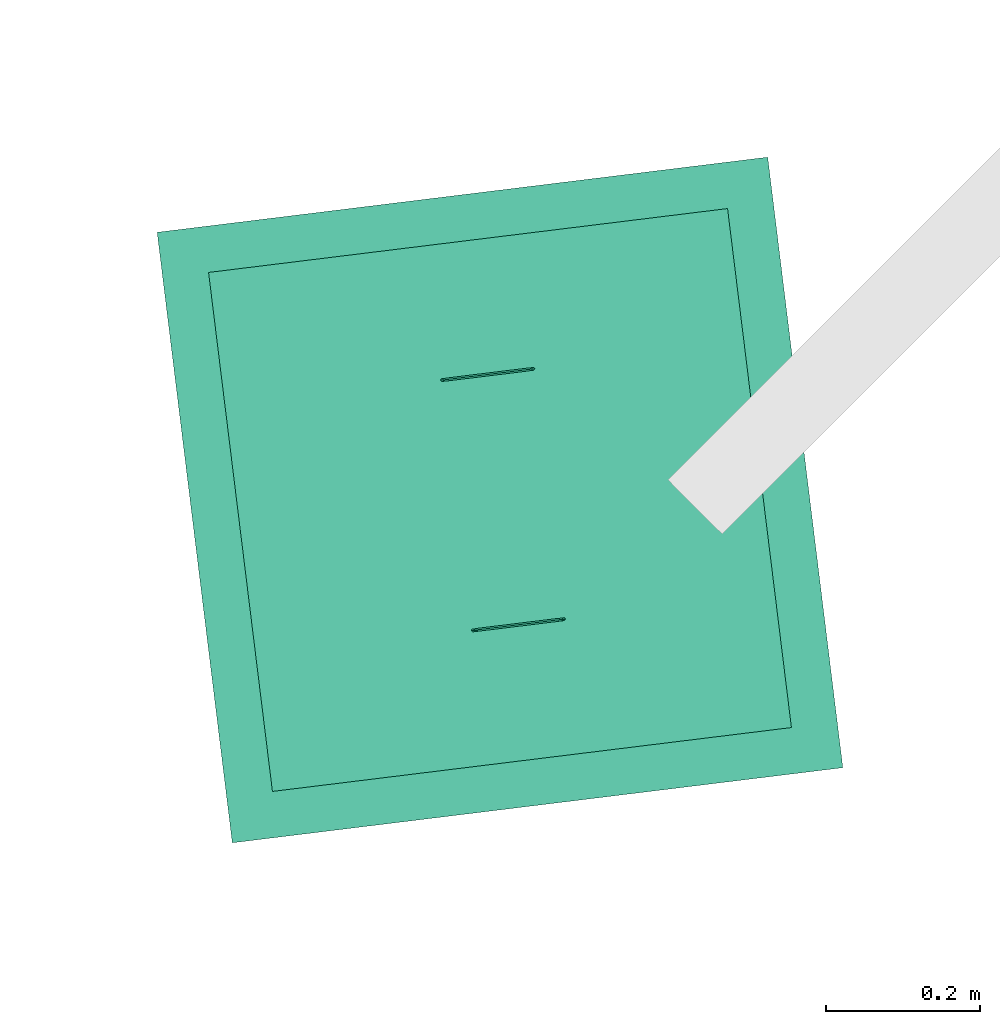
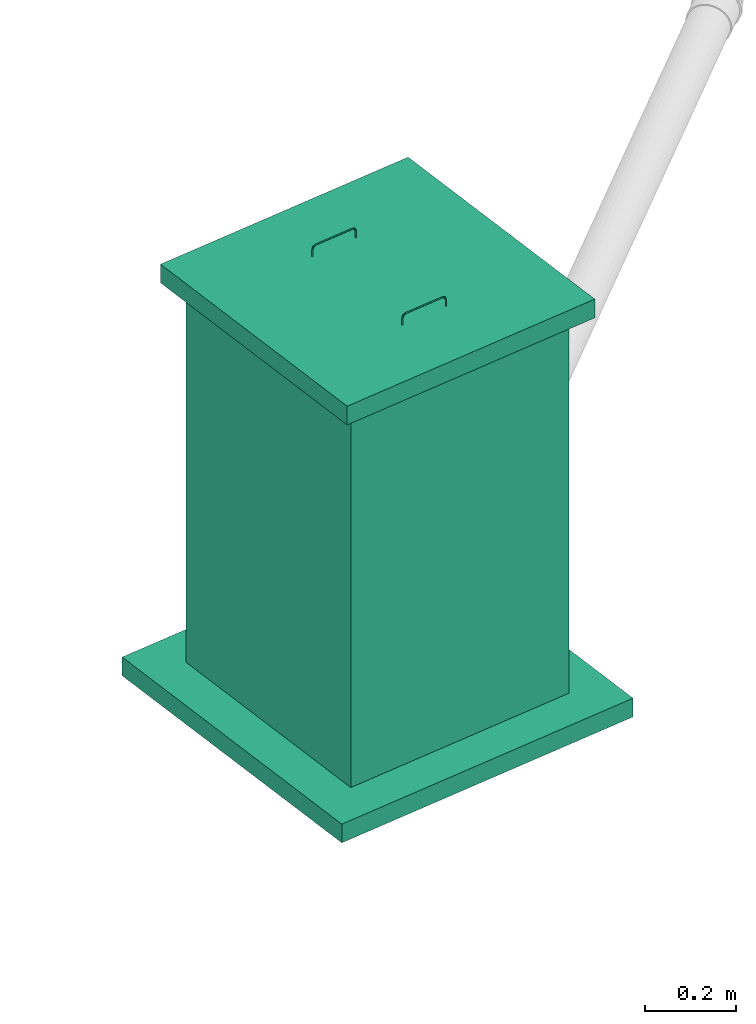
# One storey, part 93 of 97: 1 flow terminal.
"""IFC2X3 building model written with IfcOpenShell, lengths in centimetres."""

from ifc_helpers import new_model, entity, si_unit, converted_unit, derived_unit, direction, frame, origin, place, context, subcontext, project, spatial, faceted_brep, source, transform, mapped, material, material_list, type_object, type_shapes, element, save


model = new_model("IFC2X3")

# Units and contexts
model_context = context("Model", 3, precision=0.001, world=origin(), true_north=direction((6.12303176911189e-17, 1.0)))
body_context = subcontext(model_context, "Body", "Model", "MODEL_VIEW")
ifc_project = project(units=[si_unit("LENGTHUNIT", "METRE", prefix="CENTI"), si_unit("AREAUNIT", "SQUARE_METRE"), si_unit("VOLUMEUNIT", "CUBIC_METRE"), converted_unit("PLANEANGLEUNIT", "DEGREE", entity("IfcRatioMeasure", 0.0174532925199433), si_unit("PLANEANGLEUNIT", "RADIAN"), dimensions=[0, 0, 0, 0, 0, 0, 0]), si_unit("MASSUNIT", "GRAM", prefix="KILO"), derived_unit("MASSDENSITYUNIT", [(si_unit("MASSUNIT", "GRAM", prefix="KILO"), 1), (si_unit("LENGTHUNIT", "METRE"), -3)]), derived_unit("MOMENTOFINERTIAUNIT", [(si_unit("LENGTHUNIT", "METRE"), 4)]), si_unit("TIMEUNIT", "SECOND"), si_unit("FREQUENCYUNIT", "HERTZ"), si_unit("THERMODYNAMICTEMPERATUREUNIT", "DEGREE_CELSIUS"), derived_unit("THERMALTRANSMITTANCEUNIT", [(si_unit("MASSUNIT", "GRAM", prefix="KILO"), 1), (si_unit("THERMODYNAMICTEMPERATUREUNIT", "KELVIN"), -1), (si_unit("TIMEUNIT", "SECOND"), -3)]), derived_unit("VOLUMETRICFLOWRATEUNIT", [(si_unit("LENGTHUNIT", "METRE"), 3), (si_unit("TIMEUNIT", "SECOND"), -1)]), si_unit("ELECTRICCURRENTUNIT", "AMPERE"), si_unit("ELECTRICVOLTAGEUNIT", "VOLT"), si_unit("POWERUNIT", "WATT"), si_unit("FORCEUNIT", "NEWTON", prefix="KILO"), si_unit("ILLUMINANCEUNIT", "LUX"), si_unit("LUMINOUSFLUXUNIT", "LUMEN"), si_unit("LUMINOUSINTENSITYUNIT", "CANDELA"), derived_unit("USERDEFINED", [(si_unit("MASSUNIT", "GRAM", prefix="KILO"), -1), (si_unit("LENGTHUNIT", "METRE"), -2), (si_unit("TIMEUNIT", "SECOND"), 3), (si_unit("LUMINOUSFLUXUNIT", "LUMEN"), 1)]), derived_unit("LINEARVELOCITYUNIT", [(si_unit("LENGTHUNIT", "METRE"), 1), (si_unit("TIMEUNIT", "SECOND"), -1)]), si_unit("PRESSUREUNIT", "PASCAL"), derived_unit("USERDEFINED", [(si_unit("LENGTHUNIT", "METRE"), -2), (si_unit("MASSUNIT", "GRAM", prefix="KILO"), 1), (si_unit("TIMEUNIT", "SECOND"), -2)]), derived_unit("LINEARFORCEUNIT", [(si_unit("MASSUNIT", "GRAM", prefix="KILO"), 1), (si_unit("LENGTHUNIT", "METRE"), 1), (si_unit("TIMEUNIT", "SECOND"), -2), (si_unit("LENGTHUNIT", "METRE"), -1)]), derived_unit("PLANARFORCEUNIT", [(si_unit("MASSUNIT", "GRAM", prefix="KILO"), 1), (si_unit("LENGTHUNIT", "METRE"), 1), (si_unit("TIMEUNIT", "SECOND"), -2), (si_unit("LENGTHUNIT", "METRE"), -2)])], contexts=[model_context])

# Site, building, storey
site_placement = place(None, origin())
site = spatial("IfcSite", under=ifc_project, at=site_placement, Name="Default", CompositionType="ELEMENT")
building_placement = place(site_placement, origin())
building = spatial("IfcBuilding", under=site, at=building_placement, Name="HIDROSSANITÁRIO", CompositionType="ELEMENT")
storey_placement = place(building_placement, frame((0.0, 0.0, -260.0)))
storey = spatial("IfcBuildingStorey", under=building, at=storey_placement, Name="TÉRREO-HID", CompositionType="ELEMENT", Elevation=-260.0)

# Flow terminal
ifc_material_1 = material(Name="<Unnamed>")
ifc_material_2 = material(Name="Concrete, Sand/Cement Screed")
ifc_material_3 = material(Name="Brick, Common, Grey")
ifc_material_list_1 = material_list([ifc_material_1, ifc_material_2, ifc_material_3])
ifc_material_list_2 = material_list([ifc_material_1, ifc_material_2, ifc_material_3])
distribution_element_type = type_object("IfcDistributionElementType", Name="Caixa de Inspeção/Gordura:Alvenaria", material=ifc_material_list_2)
shared_shape = source(origin(), body_context, "Body", "Brep", [
    faceted_brep([(-5.60146522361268, 16.5924553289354, 3.71042168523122), (-5.40613785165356, 16.3971279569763, 3.71042168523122), (-5.60146522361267, 16.2018005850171, 3.71042168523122), (-5.79679259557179, 16.3971279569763, 3.71042168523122), (6.39853477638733, 16.2018005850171, 3.71042168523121), (6.20320740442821, 16.3971279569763, 3.71042168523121), (6.39853477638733, 16.5924553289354, 3.71042168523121), (6.59386214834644, 16.3971279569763, 3.71042168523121), (-5.40613785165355, 16.3971279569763, 5.27042602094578), (-5.57070403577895, 16.2042380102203, 5.71042174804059), (-5.79679259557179, 16.3971279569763, 5.27042593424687), (-5.40613785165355, 16.3971279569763, 7.71042168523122), (-5.60146522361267, 16.2018005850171, 7.71042168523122), (-5.40613785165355, 16.3971279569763, 6.1504173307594), (-5.79679259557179, 16.3971279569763, 7.71042168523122), (-5.60146522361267, 16.5924553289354, 7.71042168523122), (-5.63222641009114, 16.5900179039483, 5.71042169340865), (-5.68947233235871, 16.5044482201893, 7.71042168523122), (-5.25102598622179, 16.2195619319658, 8.35998244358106), (-5.37993713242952, 16.2298951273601, 8.48889359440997), (-4.60146522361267, 16.3971279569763, 8.90574905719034), (-4.60146522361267, 16.2018005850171, 8.71042168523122), (-5.17045469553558, 16.3971279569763, 8.27941115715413), (-4.60146522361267, 16.3971279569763, 8.5150943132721), (-5.44668931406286, 16.3971279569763, 8.55564577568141), (-5.36898819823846, 16.5727768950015, 8.47794465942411), (-5.21737432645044, 16.5627205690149, 8.36172681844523), (-4.60146522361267, 16.5924553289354, 8.71042168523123), (0.518543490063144, 16.3971279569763, 8.90574905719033), (1.73854147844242, 16.2018005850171, 8.71042168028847), (2.95853913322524, 16.3971279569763, 8.90574905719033), (-0.76461087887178, 16.2018577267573, 8.71514602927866), (-2.16146960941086, 16.3971279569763, 8.5150943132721), (0.278526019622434, 16.3971279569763, 8.5150943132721), (0.398534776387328, 16.3971279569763, 8.5150943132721), (-2.16146958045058, 16.3971279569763, 8.90574905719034), (5.39853477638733, 16.2018005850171, 8.71042168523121), (5.39853477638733, 16.3971279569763, 8.90574905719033), (2.95853916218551, 16.3971279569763, 8.5150943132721), (5.39853477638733, 16.3971279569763, 8.51509431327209), (0.398534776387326, 16.3971279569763, 8.90574905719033), (1.56168082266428, 16.5923981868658, 8.70569732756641), (-0.941471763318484, 16.5924553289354, 8.71042168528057), (5.39853477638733, 16.5924553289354, 8.71042168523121), (5.39853477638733, 16.5044482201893, 8.79842879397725), (6.04809553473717, 16.2195619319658, 8.35998244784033), (6.17700668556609, 16.2298951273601, 8.48889359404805), (6.59386214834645, 16.3971279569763, 7.71042168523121), (6.39853477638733, 16.2018005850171, 7.71042168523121), (5.96752424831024, 16.3971279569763, 8.27941115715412), (6.20320740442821, 16.3971279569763, 7.71042168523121), (6.24375886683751, 16.3971279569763, 8.5556457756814), (6.16605775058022, 16.5727768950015, 8.477944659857), (6.04983990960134, 16.5627205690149, 8.32633078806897), (6.39853477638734, 16.5924553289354, 7.71042168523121), (6.20320740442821, 16.3971279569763, 6.15041734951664), (6.36777358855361, 16.2042380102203, 5.71042162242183), (6.59386214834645, 16.3971279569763, 6.15041743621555), (6.20320740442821, 16.3971279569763, 5.27042603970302), (6.4292959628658, 16.5900179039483, 5.71042167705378)], [[[0, 1, 2, 3]], [[4, 5, 6, 7]], [[8, 9, 2]], [[2, 10, 3]], [[10, 2, 9]], [[11, 12, 9]], [[8, 2, 1]], [[9, 8, 13, 11]], [[9, 12, 14]], [[14, 10, 9]], [[13, 15, 11]], [[0, 10, 16]], [[14, 16, 10]], [[10, 0, 3]], [[16, 13, 8, 1]], [[13, 16, 15]], [[1, 0, 16]], [[16, 14, 17, 15]], [[12, 18, 19]], [[20, 19, 21]], [[14, 12, 19]], [[11, 22, 18]], [[23, 21, 18]], [[14, 19, 24]], [[24, 19, 20]], [[23, 18, 22]], [[19, 18, 21]], [[11, 18, 12]], [[17, 14, 24]], [[25, 26, 15]], [[25, 15, 17]], [[11, 15, 26]], [[25, 27, 26]], [[20, 25, 24]], [[20, 27, 25]], [[26, 22, 11]], [[22, 26, 23]], [[17, 24, 25]], [[23, 26, 27]], [[28, 29, 30]], [[31, 32, 33, 34]], [[35, 20, 21]], [[36, 37, 30]], [[29, 28, 31]], [[38, 39, 36]], [[21, 23, 32]], [[34, 29, 31]], [[32, 31, 21]], [[30, 29, 36]], [[34, 38, 29]], [[36, 29, 38]], [[31, 28, 40, 35]], [[31, 35, 21]], [[40, 41, 42]], [[43, 39, 38]], [[27, 42, 33, 32, 23]], [[27, 20, 35, 40, 42]], [[30, 37, 44, 43]], [[38, 41, 43]], [[30, 43, 41]], [[42, 41, 33]], [[41, 40, 28, 30]], [[41, 38, 34, 33]], [[36, 45, 46]], [[47, 46, 48]], [[37, 36, 46]], [[39, 49, 45]], [[50, 48, 45]], [[37, 46, 51]], [[51, 46, 47]], [[50, 45, 49]], [[46, 45, 48]], [[39, 45, 36]], [[44, 37, 51]], [[52, 53, 43]], [[52, 43, 44]], [[39, 43, 53]], [[52, 54, 53]], [[47, 52, 51]], [[47, 54, 52]], [[53, 49, 39]], [[49, 53, 50]], [[44, 51, 52]], [[50, 53, 54]], [[55, 56, 48]], [[48, 57, 47]], [[57, 48, 56]], [[5, 4, 56]], [[55, 48, 50]], [[56, 55, 58, 5]], [[56, 4, 7]], [[7, 57, 56]], [[58, 6, 5]], [[54, 57, 59]], [[7, 59, 57]], [[57, 54, 47]], [[59, 58, 55, 50]], [[58, 59, 6]], [[50, 54, 59]], [[7, 6, 59]]]),
    faceted_brep([(-5.60146522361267, -16.5924553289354, 3.71042168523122), (-5.79679259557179, -16.3971279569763, 3.71042168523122), (-5.60146522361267, -16.2018005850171, 3.71042168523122), (-5.40613785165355, -16.3971279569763, 3.71042168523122), (6.39853477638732, -16.2018005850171, 3.71042168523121), (6.59386214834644, -16.3971279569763, 3.71042168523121), (6.39853477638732, -16.5924553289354, 3.71042168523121), (6.20320740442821, -16.3971279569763, 3.71042168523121), (-5.79679259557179, -16.3971279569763, 6.15041737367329), (-5.60146522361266, -16.5924553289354, 7.71042168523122), (-5.68947233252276, -16.5044482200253, 7.71042168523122), (-5.79679259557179, -16.3971279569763, 7.71042168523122), (-5.40613785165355, -16.3971279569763, 5.27042602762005), (-5.5707040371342, -16.5900179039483, 5.71042169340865), (-5.40613785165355, -16.3971279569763, 7.71042168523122), (-5.79679259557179, -16.3971279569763, 5.27042602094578), (-5.51345811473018, -16.5044482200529, 7.71042168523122), (-5.63222641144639, -16.2042380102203, 5.71042174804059), (-5.60146522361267, -16.2018005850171, 7.71042168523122), (-5.37028554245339, -16.5521831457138, 8.52319636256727), (-5.44668931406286, -16.3971279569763, 8.55564577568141), (-5.17045469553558, -16.3971279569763, 8.27941115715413), (-4.60146522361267, -16.3971279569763, 8.5150943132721), (-4.60146522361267, -16.5044482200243, 8.62241457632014), (-4.60146522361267, -16.5924553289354, 8.71042168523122), (-4.60146522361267, -16.5044482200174, 8.79842879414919), (-5.27261908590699, -16.5857215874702, 8.3815755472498), (-4.60146522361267, -16.3971279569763, 8.90574905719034), (-5.23720687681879, -16.2298951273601, 8.34616333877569), (-4.60146522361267, -16.2018005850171, 8.71042168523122), (-5.36611802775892, -16.2195619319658, 8.4750744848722), (0.398534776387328, -16.3971279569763, 8.5150943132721), (1.56168082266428, -16.5923981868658, 8.71514604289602), (-0.941471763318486, -16.5924553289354, 8.71042168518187), (2.95853912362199, -16.3971279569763, 8.90574905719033), (5.39853477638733, -16.5924553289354, 8.71042168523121), (5.39853477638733, -16.5044482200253, 8.7984287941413), (5.39853477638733, -16.3971279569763, 8.90574905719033), (0.278526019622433, -16.3971279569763, 8.90574905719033), (-2.16146957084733, -16.3971279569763, 8.90574905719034), (-2.16146960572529, -16.3971279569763, 8.5150943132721), (2.95853915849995, -16.3971279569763, 8.51509431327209), (5.39853477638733, -16.3971279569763, 8.51509431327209), (5.39853477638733, -16.5044482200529, 8.62241457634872), (0.518543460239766, -16.3971279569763, 8.5150943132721), (0.398534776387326, -16.3971279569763, 8.90574905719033), (1.73854147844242, -16.2018005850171, 8.71042169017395), (-0.76461087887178, -16.2018577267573, 8.70569734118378), (5.39853477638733, -16.2018005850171, 8.71042168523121), (6.21130945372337, -16.5521831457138, 8.47924200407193), (6.24375886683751, -16.3971279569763, 8.5556457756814), (5.96752424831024, -16.3971279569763, 8.27941115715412), (6.20320740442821, -16.3971279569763, 7.71042168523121), (6.31052766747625, -16.5044482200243, 7.71042168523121), (6.39853477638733, -16.5924553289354, 7.71042168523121), (6.4865418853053, -16.5044482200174, 7.71042168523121), (6.06968863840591, -16.5857215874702, 8.38157554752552), (6.59386214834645, -16.3971279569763, 7.71042168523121), (6.03427642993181, -16.2298951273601, 8.34616333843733), (6.39853477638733, -16.2018005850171, 7.71042168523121), (6.16318757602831, -16.2195619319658, 8.47507448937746), (6.59386214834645, -16.3971279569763, 5.27042599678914), (6.20320740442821, -16.3971279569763, 6.15041726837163), (6.36777358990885, -16.5900179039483, 5.71042167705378), (6.59386214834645, -16.3971279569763, 6.15041734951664), (6.42929596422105, -16.2042380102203, 5.71042162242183)], [[[0, 1, 2, 3]], [[4, 5, 6, 7]], [[8, 9, 10, 11]], [[0, 12, 13]], [[14, 13, 12]], [[12, 0, 3]], [[13, 8, 15, 1]], [[8, 13, 9]], [[1, 0, 13]], [[13, 14, 16, 9]], [[15, 17, 2]], [[2, 12, 3]], [[12, 2, 17]], [[11, 18, 17]], [[15, 2, 1]], [[17, 15, 8, 11]], [[17, 18, 14]], [[14, 12, 17]], [[19, 10, 9]], [[10, 19, 20]], [[21, 22, 23]], [[24, 25, 19]], [[24, 26, 23]], [[24, 19, 26]], [[16, 26, 9]], [[20, 25, 27]], [[20, 11, 10]], [[23, 26, 21]], [[19, 25, 20]], [[14, 21, 16]], [[26, 19, 9]], [[26, 16, 21]], [[22, 28, 29]], [[18, 30, 28]], [[14, 28, 21]], [[14, 18, 28]], [[11, 20, 30]], [[27, 30, 20]], [[27, 29, 30]], [[11, 30, 18]], [[21, 28, 22]], [[28, 30, 29]], [[31, 32, 33]], [[34, 35, 36, 37]], [[24, 33, 38, 39, 27, 25]], [[40, 31, 33, 24, 23, 22]], [[41, 42, 43, 35]], [[34, 32, 35]], [[41, 35, 32]], [[33, 32, 38]], [[32, 31, 44, 41]], [[32, 34, 45, 38]], [[44, 46, 41]], [[47, 39, 38, 45]], [[40, 22, 29]], [[48, 42, 41]], [[46, 44, 47]], [[34, 37, 48]], [[29, 27, 39]], [[45, 46, 47]], [[39, 47, 29]], [[41, 46, 48]], [[45, 34, 46]], [[48, 46, 34]], [[47, 44, 31, 40]], [[47, 40, 29]], [[49, 36, 35]], [[36, 49, 50]], [[51, 52, 53]], [[54, 55, 49]], [[54, 56, 53]], [[54, 49, 56]], [[43, 56, 35]], [[50, 55, 57]], [[50, 37, 36]], [[53, 56, 51]], [[49, 55, 50]], [[42, 51, 43]], [[56, 49, 35]], [[56, 43, 51]], [[52, 58, 59]], [[48, 60, 58]], [[42, 58, 51]], [[42, 48, 58]], [[37, 50, 60]], [[57, 60, 50]], [[57, 59, 60]], [[37, 60, 48]], [[51, 58, 52]], [[58, 60, 59]], [[61, 6, 5]], [[54, 62, 63]], [[7, 63, 62]], [[62, 54, 53, 52]], [[63, 61, 64, 57]], [[61, 63, 6]], [[63, 57, 55, 54]], [[7, 6, 63]], [[64, 65, 59]], [[59, 62, 52]], [[62, 59, 65]], [[5, 4, 65]], [[64, 59, 57]], [[65, 64, 61, 5]], [[65, 4, 7]], [[7, 62, 65]]]),
    faceted_brep([(34.0, 34.0, 6.0), (-34.0, 34.0, 6.0), (-34.0, -34.0, 6.0), (34.0, -34.0, 6.0), (34.0, 34.0, 1.0), (34.0, -34.0, 1.0), (-34.0, -34.0, 1.0), (-34.0, 34.0, 1.0)], [[[0, 1, 2, 3]], [[4, 5, 6, 7]], [[1, 0, 4, 7]], [[2, 1, 7, 6]], [[3, 2, 6, 5]], [[0, 3, 5, 4]]]),
    faceted_brep([(40.0, 40.0, -100.0), (-40.0, 40.0, -100.0), (-40.0, -40.0, -100.0), (40.0, -40.0, -100.0), (40.0, 40.0, -105.0), (40.0, -40.0, -105.0), (-40.0, -40.0, -105.0), (-40.0, 40.0, -105.0)], [[[0, 1, 2, 3]], [[4, 5, 6, 7]], [[1, 0, 4, 7]], [[2, 1, 7, 6]], [[3, 2, 6, 5]], [[0, 3, 5, 4]]]),
    faceted_brep([(25.0, 25.0, 1.0), (25.0, -25.0, 1.0), (-25.0, -25.0, 1.0), (-25.0, 25.0, 1.0), (30.0, 30.0, 1.0), (-30.0, 30.0, 1.0), (-30.0, -30.0, 1.0), (30.0, -30.0, 1.0), (25.0, 25.0, -100.0), (-25.0, 25.0, -100.0), (-25.0, -25.0, -100.0), (25.0, -25.0, -100.0), (30.0, 30.0, -100.0), (30.0, -30.0, -100.0), (-30.0, -30.0, -100.0), (-30.0, 30.0, -100.0)], [[[0, 1, 2, 3], [4, 5, 6, 7]], [[8, 9, 10, 11], [12, 13, 14, 15]], [[1, 0, 8, 11]], [[2, 1, 11, 10]], [[3, 2, 10, 9]], [[0, 3, 9, 8]], [[5, 4, 12, 15]], [[6, 5, 15, 14]], [[7, 6, 14, 13]], [[4, 7, 13, 12]]], outer=[[False, True], [False, True], [True], [True], [True], [True], [True], [True], [True], [True]]),
])
type_shapes(distribution_element_type, [shared_shape])
flow_terminal_placement = place(storey_placement, frame((2644.08489016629, 2703.71794904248, 34.0), z_axis=(0.0, 0.0, 1.0), x_axis=(0.992511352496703, 0.122152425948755, 0.0)))
element("IfcFlowTerminal", 1, at=flow_terminal_placement, inside=storey, type_object=distribution_element_type, material=ifc_material_list_1, Name="Caixa de Inspeção/Gordura:Alvenaria", ObjectType="Caixa de Inspeção/Gordura:Alvenaria", context=body_context, shape_type="MappedRepresentation", body=[
    mapped(shared_shape, transform((0.0, 0.0, 0.0), scale=1.0)),
])

save(model, "model.ifc")
